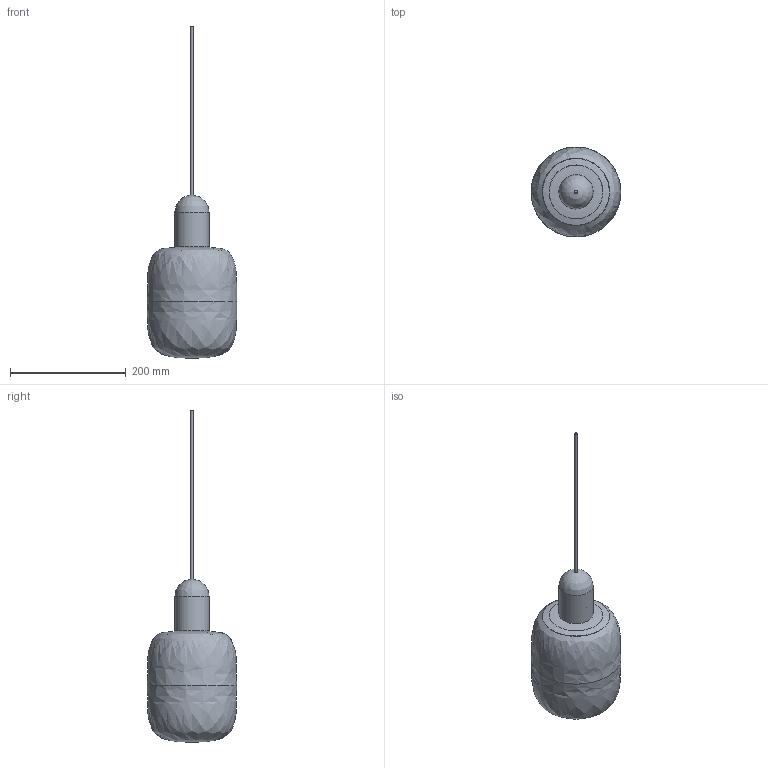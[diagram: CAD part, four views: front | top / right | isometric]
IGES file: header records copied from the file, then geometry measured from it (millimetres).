
Global section: file name: Niche - Arca Tall - Placebo Pendant; native system: unknown; preprocessor: unknown; author: unknown; organization: unknown; date: 20250109.101946; units: inch
Bounding box: 155.33 x 155.18 x 573.02 mm (x, y, z)
Volume: 204147.9 mm3; surface area: 266130 mm2
Topology: 5 solids, 5 shells, 112 faces, 302 edges, 201 vertices
Faces by surface type: bspline 112
